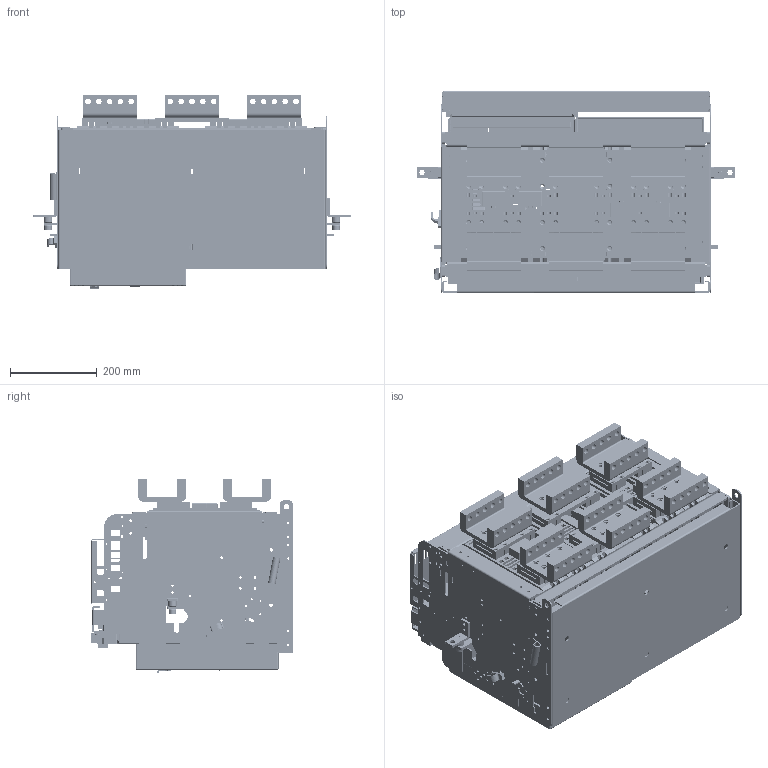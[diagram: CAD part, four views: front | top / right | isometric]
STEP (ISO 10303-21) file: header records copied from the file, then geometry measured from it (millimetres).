
FILE_DESCRIPTION((''),'2;1');
FILE_NAME('C503H_ASM_5_ASM_ASM','2017-01-31T',('HHI'),(''),'PRO/ENGINEER BY PARAMETRIC TECHNOLOGY CORPORATION, 2012453','PRO/ENGINEER BY PARAMETRIC TECHNOLOGY CORPORATION, 2012453','');
FILE_SCHEMA(('CONFIG_CONTROL_DESIGN'));
Products named in the file (56): MAIN_SC_DR_BASE_503_2; U_DR_FRAME_L_5; MANIFOLD_SOLID_BREP_22393; MAIN_SC-DR-FRAME_L_48_ASM_ASM; ASM_U_DR_SIDE_L_ASM_6_ASM_ASM; MANIFOLD_SOLID_BREP_43143; MANIFOLD_SOLID_BREP_43363; MAIN_SC-DR-FRAME_R_47_ASM_ASM; ASM_U_DR_SIDE_R_ASM_5_ASM_ASM; SUPPORTER_MOLD_DOWN_503_2; SUPPORTER_TERMINAL_MOLD_WELD_4; ASM_SUPPORTER_MOLD_DOWN_503_ASM_ASM; U_MAIN_TERMINAL_MOLD_503_2; HEX_NUT_M6_4; ASM_U_TERMINAL_MOLD_503_ASM_2_A_ASM; ISOL_TERMINAL_SPACER_4; ISOL_TERMINAL_503V_2; ISOL_TERMINAL_503S_V_2; ASM_U_MAIN_TERMINAL_MOLD_503_AS_ASM; SUPPORTER_TERMINAL_MOLD_503_2; ASM_SUPPORTER_TER_MOLD_UP_503_A_ASM; SUPPORTER_TERMINAL_MOLD_2_4; SC_CO_JACK_DFC_503_2; CHINA_CONTROL_JACK_FEMALE_4; U_GUIDE_SPACER_CONTROL_JACK_4; U_CONTROL_JACK_FIX_504_4; ASM_U_CONTROL_JACK_503_ASM_4_AS_ASM; U_MANU_JACK_FRAME_SUP_503C_1; JOINT_TERMINAL_503H_1; SC_CONTROL_JACK_32; SC_MAIN_FRONT_COVER20120324_19; SC_DR_DEVICE_COVER2_32; SC_DR_LOCK_PUSH_BUTTON_32; SC_MANUAL_POSITION_LOCK_32; SC-DR-INDICATOR_SAMPLE_34; DR_COVER_SAMPLE_ASM_33_ASM_ASM; MAIN_SC-OCR-COVER-U-DD-RE_33; MAIN_SC-OCR-PROTECTION-COVER-RE; MAIN_SC-OCR-LOWER-COVER-RE_32; OCR_COVER_SAMPLE_ASM_33_ASM_ASM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
Assembly tree (123 placements, depth 5):
  C503H_ASM_5_ASM_ASM
    MAIN_SC_DR_BASE_503_2
    ASM_U_DR_SIDE_L_ASM_6_ASM_ASM
      U_DR_FRAME_L_5
      MAIN_SC-DR-FRAME_L_48_ASM_ASM
        MANIFOLD_SOLID_BREP_22393
    ASM_U_DR_SIDE_R_ASM_5_ASM_ASM
      MAIN_SC-DR-FRAME_R_47_ASM_ASM
        MANIFOLD_SOLID_BREP_43143
        MANIFOLD_SOLID_BREP_43363
    ASM_SUPPORTER_MOLD_DOWN_503_ASM_ASM
      SUPPORTER_MOLD_DOWN_503_2
      SUPPORTER_TERMINAL_MOLD_WELD_4  x4
    ASM_U_MAIN_TERMINAL_MOLD_503_AS_ASM
      ASM_U_TERMINAL_MOLD_503_ASM_2_A_ASM  x2
        U_MAIN_TERMINAL_MOLD_503_2
        HEX_NUT_M6_4
      ISOL_TERMINAL_SPACER_4  x24
      ISOL_TERMINAL_503V_2  x4
      ISOL_TERMINAL_503S_V_2  x2
    ASM_SUPPORTER_TER_MOLD_UP_503_A_ASM
      SUPPORTER_TERMINAL_MOLD_503_2
      SUPPORTER_TERMINAL_MOLD_WELD_4  x2
    SUPPORTER_TERMINAL_MOLD_2_4
    ASM_U_CONTROL_JACK_503_ASM_4_AS_ASM
      SC_CO_JACK_DFC_503_2
      CHINA_CONTROL_JACK_FEMALE_4
      U_GUIDE_SPACER_CONTROL_JACK_4  x2
      U_CONTROL_JACK_FIX_504_4
    U_MANU_JACK_FRAME_SUP_503C_1
    JOINT_TERMINAL_503H_1  x6
    COVER503_ASSY_ASM_3_ASM_ASM
      COVER203_ASSY_ASM_36_ASM_ASM
        SC_CONTROL_JACK_32
        SC_MAIN_FRONT_COVER20120324_19
        DR_COVER_SAMPLE_ASM_33_ASM_ASM
          SC_DR_DEVICE_COVER2_32
          SC_DR_LOCK_PUSH_BUTTON_32
          SC_MANUAL_POSITION_LOCK_32
          SC-DR-INDICATOR_SAMPLE_34
        OCR_COVER_SAMPLE_ASM_33_ASM_ASM
          MAIN_SC-OCR-COVER-U-DD-RE_33
          MAIN_SC-OCR-PROTECTION-COVER-RE
          MAIN_SC-OCR-LOWER-COVER-RE_32
        SC-CLOSE-BUTTON_30
        SC-OPEN-BUTTON_30
        N_CHARGE_HANDLE_29
      SC_ADDITIONAL_FRONT_COVER_7
    U_ARC_SHIELD_503_1
    FIX_BODY_ASM_L_ASM_4_ASM_ASM
      SC-FIX-BLOCK-L_3
      FIX_BODY_EXTRA_3
      FIX_BLOCK_CRADLE_6
      BOLT_5
    FIX_BODY_ASM_R_ASM_7_ASM_ASM
      SC-FIX-BLOCK-R_6
      SC-FIX-BLOCK-SUP-R_4
      FIX_BLOCK_CRADLE_6
      BOLT_5
Bounding box: 736 x 466.35 x 448.03 mm (x, y, z)
Volume: 10759891.1 mm3; surface area: 5378606 mm2
Topology: 136 solids, 136 shells, 17930 faces, 52624 edges, 34596 vertices
Faces by surface type: plane 13329, cylinder 3788, cone 369, torus 178, sphere 117, extrusion 92, bspline 57
Entity records: 487624 total; most frequent: CARTESIAN_POINT 91385, ORIENTED_EDGE 85578, DIRECTION 77717, EDGE_CURVE 42789, VECTOR 35975, LINE 35883, VERTEX_POINT 28197, AXIS2_PLACEMENT_3D 20871
